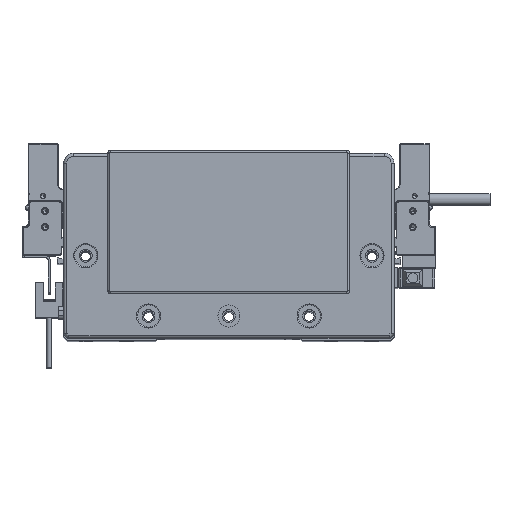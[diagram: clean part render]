
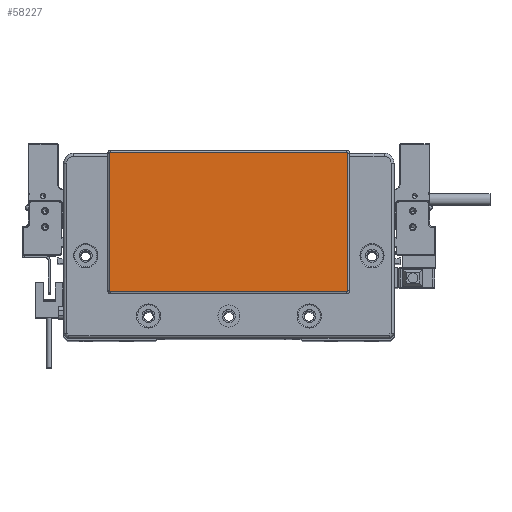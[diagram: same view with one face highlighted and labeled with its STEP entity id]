
A CAD part, top view. The second image highlights one B-rep face of the part: STEP entity #58227.
In plain terms, the highlighted planar face has unit normal (0, 0, 1) as drawn and (0, 0, -1) by its records, which use the part's own axes.
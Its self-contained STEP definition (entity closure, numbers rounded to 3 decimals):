
#135 = EDGE_CURVE ( 'NONE', #40226, #65845, #50023, .T. ) ;
#261 = EDGE_CURVE ( 'NONE', #77631, #40226, #40721, .T. ) ;
#498 = CARTESIAN_POINT ( 'NONE',  ( 59.25, -23.3, -2. ) ) ;
#1178 = DIRECTION ( 'NONE',  ( 0., 0., -1. ) ) ;
#3495 = AXIS2_PLACEMENT_3D ( 'NONE', #11714, #52749, #58668 ) ;
#3733 = VERTEX_POINT ( 'NONE', #72832 ) ;
#4142 = ORIENTED_EDGE ( 'NONE', *, *, #135, .T. ) ;
#4956 = CARTESIAN_POINT ( 'NONE',  ( -59.25, 45.3, -2. ) ) ;
#6094 = CARTESIAN_POINT ( 'NONE',  ( -58.75, 45.3, -2. ) ) ;
#9260 = EDGE_CURVE ( 'NONE', #65845, #48865, #75569, .T. ) ;
#9578 = EDGE_CURVE ( 'NONE', #3733, #15780, #27967, .T. ) ;
#11714 = CARTESIAN_POINT ( 'NONE',  ( 58.75, -23.3, -2. ) ) ;
#12851 = ORIENTED_EDGE ( 'NONE', *, *, #261, .T. ) ;
#15780 = VERTEX_POINT ( 'NONE', #76408 ) ;
#17507 = DIRECTION ( 'NONE',  ( 0., -1., 0. ) ) ;
#18567 = DIRECTION ( 'NONE',  ( -1., 0., 0. ) ) ;
#18862 = AXIS2_PLACEMENT_3D ( 'NONE', #6094, #32370, #50135 ) ;
#21289 = CARTESIAN_POINT ( 'NONE',  ( 59.25, 45.3, -2. ) ) ;
#21469 = CARTESIAN_POINT ( 'NONE',  ( 59.25, -23.3, -2. ) ) ;
#24465 = CARTESIAN_POINT ( 'NONE',  ( 0., 0., -2. ) ) ;
#26834 = VECTOR ( 'NONE', #45996, 1000. ) ;
#27836 = LINE ( 'NONE', #4956, #26834 ) ;
#27967 = LINE ( 'NONE', #34666, #55691 ) ;
#28492 = CARTESIAN_POINT ( 'NONE',  ( 58.75, 45.8, -2. ) ) ;
#28879 = DIRECTION ( 'NONE',  ( 1., 0., 0. ) ) ;
#28937 = CIRCLE ( 'NONE', #18862, 0.5 ) ;
#32322 = FACE_OUTER_BOUND ( 'NONE', #37838, .T. ) ;
#32370 = DIRECTION ( 'NONE',  ( 0., 0., -1. ) ) ;
#32561 = VERTEX_POINT ( 'NONE', #60702 ) ;
#33480 = EDGE_CURVE ( 'NONE', #62353, #77631, #28937, .T. ) ;
#33778 = CARTESIAN_POINT ( 'NONE',  ( -59.25, 45.3, -2. ) ) ;
#34666 = CARTESIAN_POINT ( 'NONE',  ( -58.75, -23.8, -2. ) ) ;
#37838 = EDGE_LOOP ( 'NONE', ( #77954, #77923, #39050, #75935, #42506, #65721, #12851, #4142 ) ) ;
#39050 = ORIENTED_EDGE ( 'NONE', *, *, #9578, .T. ) ;
#40226 = VERTEX_POINT ( 'NONE', #59440 ) ;
#40721 = LINE ( 'NONE', #28492, #48781 ) ;
#42506 = ORIENTED_EDGE ( 'NONE', *, *, #49670, .T. ) ;
#45996 = DIRECTION ( 'NONE',  ( 0., 1., 0. ) ) ;
#47300 = DIRECTION ( 'NONE',  ( -1., 0., 0. ) ) ;
#48535 = DIRECTION ( 'NONE',  ( 0., 0., -1. ) ) ;
#48781 = VECTOR ( 'NONE', #28879, 1000. ) ;
#48865 = VERTEX_POINT ( 'NONE', #498 ) ;
#49485 = CIRCLE ( 'NONE', #70980, 0.5 ) ;
#49670 = EDGE_CURVE ( 'NONE', #32561, #62353, #27836, .T. ) ;
#50023 = CIRCLE ( 'NONE', #71522, 0.5 ) ;
#50122 = CIRCLE ( 'NONE', #3495, 0.5 ) ;
#50135 = DIRECTION ( 'NONE',  ( -1., 0., 0. ) ) ;
#50612 = CARTESIAN_POINT ( 'NONE',  ( 58.75, 45.3, -2. ) ) ;
#52749 = DIRECTION ( 'NONE',  ( 0., 0., -1. ) ) ;
#54232 = CARTESIAN_POINT ( 'NONE',  ( -58.75, 45.8, -2. ) ) ;
#55606 = DIRECTION ( 'NONE',  ( -1., 0., 0. ) ) ;
#55691 = VECTOR ( 'NONE', #47300, 1000. ) ;
#56396 = PLANE ( 'NONE',  #67920 ) ;
#58227 = ADVANCED_FACE ( 'NONE', ( #32322 ), #56396, .T. ) ;
#58668 = DIRECTION ( 'NONE',  ( -1., 0., 0. ) ) ;
#59440 = CARTESIAN_POINT ( 'NONE',  ( 58.75, 45.8, -2. ) ) ;
#60702 = CARTESIAN_POINT ( 'NONE',  ( -59.25, -23.3, -2. ) ) ;
#60762 = CARTESIAN_POINT ( 'NONE',  ( -58.75, -23.3, -2. ) ) ;
#61838 = EDGE_CURVE ( 'NONE', #15780, #32561, #49485, .T. ) ;
#62353 = VERTEX_POINT ( 'NONE', #33778 ) ;
#65721 = ORIENTED_EDGE ( 'NONE', *, *, #33480, .T. ) ;
#65845 = VERTEX_POINT ( 'NONE', #21289 ) ;
#66391 = EDGE_CURVE ( 'NONE', #48865, #3733, #50122, .T. ) ;
#67606 = DIRECTION ( 'NONE',  ( 0., 0., -1. ) ) ;
#67920 = AXIS2_PLACEMENT_3D ( 'NONE', #24465, #48535, #18567 ) ;
#68384 = DIRECTION ( 'NONE',  ( -1., 0., 0. ) ) ;
#69502 = VECTOR ( 'NONE', #17507, 1000. ) ;
#70980 = AXIS2_PLACEMENT_3D ( 'NONE', #60762, #1178, #55606 ) ;
#71522 = AXIS2_PLACEMENT_3D ( 'NONE', #50612, #67606, #68384 ) ;
#72832 = CARTESIAN_POINT ( 'NONE',  ( 58.75, -23.8, -2. ) ) ;
#75569 = LINE ( 'NONE', #21469, #69502 ) ;
#75935 = ORIENTED_EDGE ( 'NONE', *, *, #61838, .T. ) ;
#76408 = CARTESIAN_POINT ( 'NONE',  ( -58.75, -23.8, -2. ) ) ;
#77631 = VERTEX_POINT ( 'NONE', #54232 ) ;
#77923 = ORIENTED_EDGE ( 'NONE', *, *, #66391, .T. ) ;
#77954 = ORIENTED_EDGE ( 'NONE', *, *, #9260, .T. ) ;
